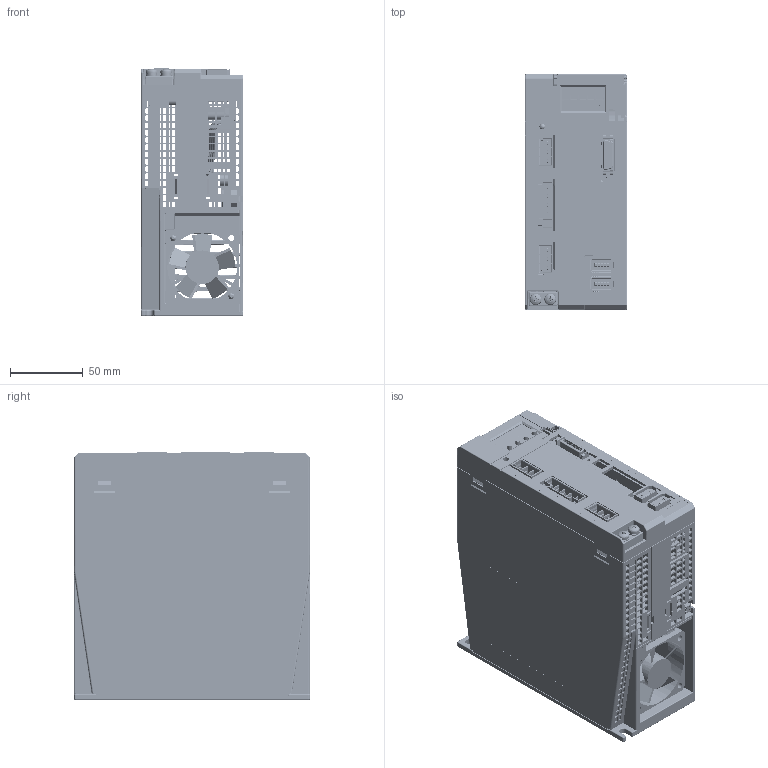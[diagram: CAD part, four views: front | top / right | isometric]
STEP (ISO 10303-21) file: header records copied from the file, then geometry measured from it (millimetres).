
FILE_DESCRIPTION((''),'2;1');
FILE_NAME('C:\Documents and Settings\11254\桌面\SDP給客戶\SDP-B\SDP-B.stp','2016-10-22T11:53:30',('11254'),(''),'Autodesk Inventor 2008','Autodesk Inventor 2008','');
FILE_SCHEMA(('AUTOMOTIVE_DESIGN { 1 0 10303 214 1 1 1 1 }'));
Length unit declared in the file: millimetre
Products named in the file (2): SDP-B; 零件18_1
Assembly tree (1 placements, depth 2):
  SDP-B
    零件18_1
Bounding box: 70 x 162 x 170.4 mm (x, y, z)
Volume: 466400.3 mm3; surface area: 407310.1 mm2
Topology: 1 solids, 1 shells, 11810 faces, 33734 edges, 22167 vertices
Faces by surface type: plane 9205, cylinder 1890, bspline 474, torus 101, sphere 77, cone 63
Full cylindrical faces by diameter (mm): 0.415 x5, 0.6 x4, 0.738 x1, 0.8 x54, 0.822 x1, 0.85 x20, 1 x2, 1.5 x30, 1.97 x10, 2 x2, 2.2 x2, 2.7 x2, 2.8 x2, 3 x19, 3.4 x4, 3.5 x8, 3.621 x2, 4 x16, 4.3 x6, 4.33 x1, 4.5 x1, 5 x6, 5.5 x2, 6 x2, 8 x2, 8.3 x1, 9 x2, 10 x2, 23 x1, 48 x1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
Entity records: 390989 total; most frequent: CARTESIAN_POINT 81243, ORIENTED_EDGE 66716, DIRECTION 59510, EDGE_CURVE 33358, VECTOR 27890, LINE 27890, VERTEX_POINT 22104, AXIS2_PLACEMENT_3D 15810
